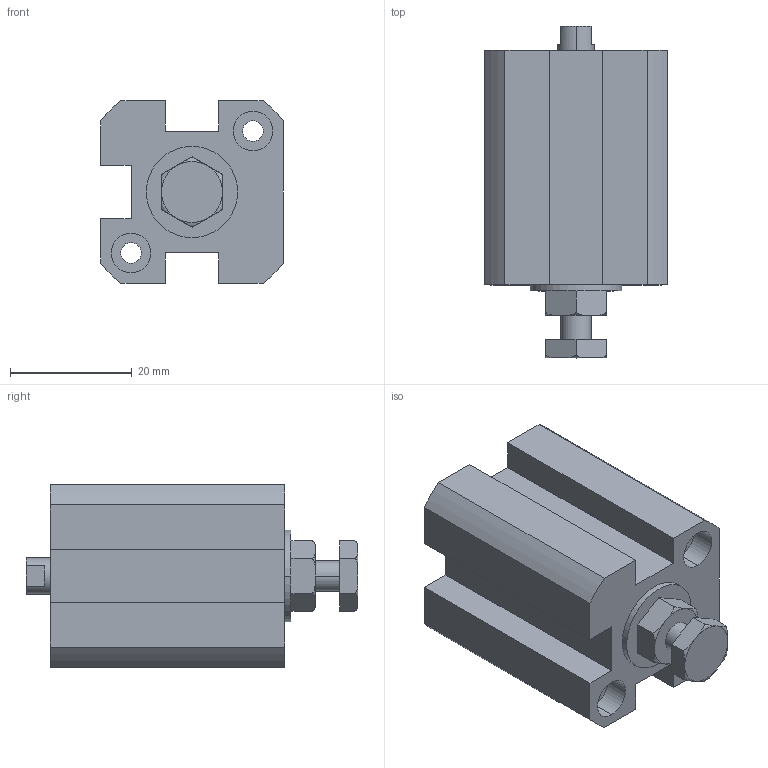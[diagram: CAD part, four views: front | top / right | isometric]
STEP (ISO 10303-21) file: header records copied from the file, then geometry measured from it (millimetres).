
FILE_DESCRIPTION (( 'STEP AP203' ), '1' );
FILE_NAME ('XGA2-16-10.STEP', '2016-05-24T02:39:32', ( '' ), ( '' ), 'SwSTEP 2.0', 'SolidWorks 2014', '' );
FILE_SCHEMA (( 'CONFIG_CONTROL_DESIGN' ));
Length unit declared in the file: millimetre
Products named in the file (3): XGA2-16-10; X#A2-16-H; XG#2-16-10
Assembly tree (2 placements, depth 2):
  XGA2-16-10
    XG#2-16-10
    X#A2-16-H
Bounding box: 30 x 54.5 x 30 mm (x, y, z)
Volume: 27968 mm3; surface area: 9391.7 mm2
Topology: 2 solids, 2 shells, 110 faces, 263 edges, 166 vertices
Faces by surface type: plane 49, cylinder 43, torus 12, cone 6
Entity records: 3685 total; most frequent: CARTESIAN_POINT 802, DIRECTION 566, ORIENTED_EDGE 514, EDGE_CURVE 257, AXIS2_PLACEMENT_3D 218, VERTEX_POINT 166, LINE 130, VECTOR 130
